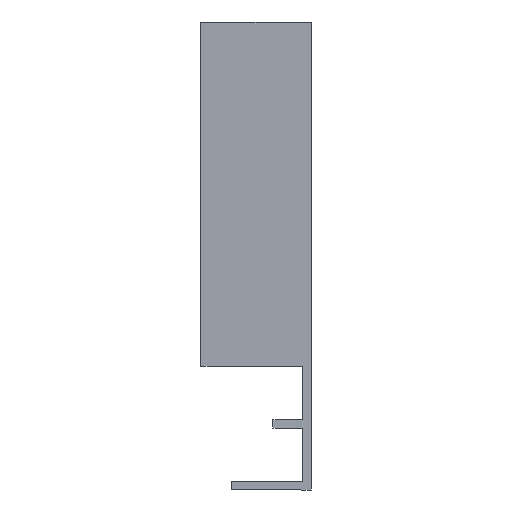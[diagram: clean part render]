
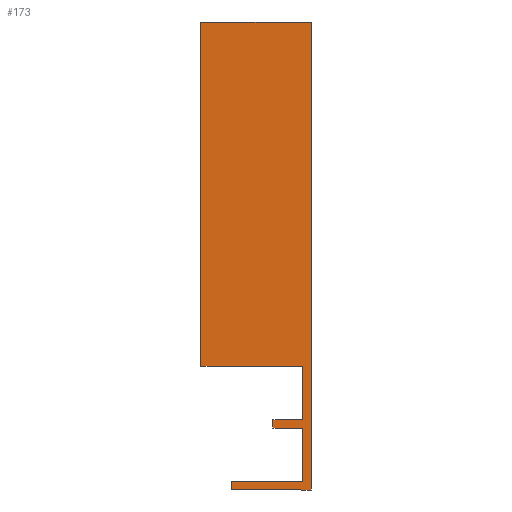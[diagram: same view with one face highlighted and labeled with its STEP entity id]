
A CAD part, left-side view. The second image highlights one B-rep face of the part: STEP entity #173.
In plain terms, the highlighted planar face has unit normal (-1, 0, 0).
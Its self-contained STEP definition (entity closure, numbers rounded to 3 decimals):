
#5 = EDGE_CURVE ( 'NONE', #159, #77, #369, .T. ) ;
#8 = EDGE_CURVE ( 'NONE', #77, #90, #370, .T. ) ;
#9 = EDGE_CURVE ( 'NONE', #157, #159, #362, .T. ) ;
#19 = EDGE_CURVE ( 'NONE', #147, #139, #495, .T. ) ;
#26 = EDGE_CURVE ( 'NONE', #156, #157, #481, .T. ) ;
#27 = EDGE_CURVE ( 'NONE', #139, #144, #477, .T. ) ;
#33 = EDGE_CURVE ( 'NONE', #152, #154, #355, .T. ) ;
#34 = EDGE_CURVE ( 'NONE', #104, #152, #498, .T. ) ;
#36 = EDGE_CURVE ( 'NONE', #90, #147, #502, .T. ) ;
#37 = EDGE_CURVE ( 'NONE', #144, #141, #504, .T. ) ;
#38 = EDGE_CURVE ( 'NONE', #141, #104, #506, .T. ) ;
#40 = EDGE_CURVE ( 'NONE', #154, #156, #510, .T. ) ;
#59 = AXIS2_PLACEMENT_3D ( 'NONE', #285, #291, #292 ) ;
#73 = CARTESIAN_POINT ( 'NONE',  ( -386.5, 10.4, 0. ) ) ;
#77 = VERTEX_POINT ( 'NONE', #228 ) ;
#85 = DIRECTION ( 'NONE',  ( 0., -1., 0. ) ) ;
#87 = CARTESIAN_POINT ( 'NONE',  ( -386.5, 6., -17.9 ) ) ;
#88 = DIRECTION ( 'NONE',  ( 0., 1., 0. ) ) ;
#89 = CARTESIAN_POINT ( 'NONE',  ( -386.5, -4.3, -7.75 ) ) ;
#90 = VERTEX_POINT ( 'NONE', #230 ) ;
#99 = CARTESIAN_POINT ( 'NONE',  ( -386.5, 0., -8.95 ) ) ;
#104 = VERTEX_POINT ( 'NONE', #231 ) ;
#106 = DIRECTION ( 'NONE',  ( 0., 0., -1. ) ) ;
#113 = CARTESIAN_POINT ( 'NONE',  ( -386.5, 6., -16.7 ) ) ;
#130 = DIRECTION ( 'NONE',  ( 0., 0., -1. ) ) ;
#131 = CARTESIAN_POINT ( 'NONE',  ( -386.5, 0., -7.75 ) ) ;
#132 = DIRECTION ( 'NONE',  ( 0., 0., -1. ) ) ;
#135 = CARTESIAN_POINT ( 'NONE',  ( -386.5, -4.3, -8.95 ) ) ;
#138 = DIRECTION ( 'NONE',  ( 0., -1., 0. ) ) ;
#139 = VERTEX_POINT ( 'NONE', #232 ) ;
#141 = VERTEX_POINT ( 'NONE', #234 ) ;
#144 = VERTEX_POINT ( 'NONE', #237 ) ;
#147 = VERTEX_POINT ( 'NONE', #240 ) ;
#152 = VERTEX_POINT ( 'NONE', #245 ) ;
#154 = VERTEX_POINT ( 'NONE', #247 ) ;
#156 = VERTEX_POINT ( 'NONE', #249 ) ;
#157 = VERTEX_POINT ( 'NONE', #250 ) ;
#159 = VERTEX_POINT ( 'NONE', #252 ) ;
#173 = ADVANCED_FACE ( 'NONE', ( #537 ), #282, .T. ) ;
#192 = CARTESIAN_POINT ( 'NONE',  ( -386.5, -5.5, -17.9 ) ) ;
#194 = DIRECTION ( 'NONE',  ( 0., 0., -1. ) ) ;
#200 = DIRECTION ( 'NONE',  ( 0., -1., 0. ) ) ;
#202 = DIRECTION ( 'NONE',  ( 0., 1., 0. ) ) ;
#203 = CARTESIAN_POINT ( 'NONE',  ( -386.5, -4.3, -16.7 ) ) ;
#205 = CARTESIAN_POINT ( 'NONE',  ( -386.5, 10.4, 49.7 ) ) ;
#208 = DIRECTION ( 'NONE',  ( 0., 1., 0. ) ) ;
#209 = CARTESIAN_POINT ( 'NONE',  ( -386.5, -5.5, 49.7 ) ) ;
#210 = DIRECTION ( 'NONE',  ( 0., 0., 1. ) ) ;
#212 = CARTESIAN_POINT ( 'NONE',  ( -386.5, -4.3, 0. ) ) ;
#213 = DIRECTION ( 'NONE',  ( 0., 0., -1. ) ) ;
#228 = CARTESIAN_POINT ( 'NONE',  ( -386.5, -4.3, -8.95 ) ) ;
#230 = CARTESIAN_POINT ( 'NONE',  ( -386.5, -4.3, -16.7 ) ) ;
#231 = CARTESIAN_POINT ( 'NONE',  ( -386.5, 10.4, 49.7 ) ) ;
#232 = CARTESIAN_POINT ( 'NONE',  ( -386.5, 6., -17.9 ) ) ;
#234 = CARTESIAN_POINT ( 'NONE',  ( -386.5, -5.5, 49.7 ) ) ;
#237 = CARTESIAN_POINT ( 'NONE',  ( -386.5, -5.5, -17.9 ) ) ;
#240 = CARTESIAN_POINT ( 'NONE',  ( -386.5, 6., -16.7 ) ) ;
#245 = CARTESIAN_POINT ( 'NONE',  ( -386.5, 10.4, 0. ) ) ;
#247 = CARTESIAN_POINT ( 'NONE',  ( -386.5, -4.3, 0. ) ) ;
#249 = CARTESIAN_POINT ( 'NONE',  ( -386.5, -4.3, -7.75 ) ) ;
#250 = CARTESIAN_POINT ( 'NONE',  ( -386.5, 0., -7.75 ) ) ;
#252 = CARTESIAN_POINT ( 'NONE',  ( -386.5, 0., -8.95 ) ) ;
#282 = PLANE ( 'NONE',  #59 ) ;
#285 = CARTESIAN_POINT ( 'NONE',  ( -386.5, 6., -16.7 ) ) ;
#291 = DIRECTION ( 'NONE',  ( -1., 0., 0. ) ) ;
#292 = DIRECTION ( 'NONE',  ( 0., -1., 0. ) ) ;
#341 = VECTOR ( 'NONE', #106, 1000. ) ;
#355 = LINE ( 'NONE', #73, #496 ) ;
#361 = VECTOR ( 'NONE', #130, 1000. ) ;
#362 = LINE ( 'NONE', #131, #361 ) ;
#364 = VECTOR ( 'NONE', #132, 1000. ) ;
#368 = VECTOR ( 'NONE', #138, 1000. ) ;
#369 = LINE ( 'NONE', #99, #368 ) ;
#370 = LINE ( 'NONE', #135, #364 ) ;
#381 = ORIENTED_EDGE ( 'NONE', *, *, #38, .T. ) ;
#382 = ORIENTED_EDGE ( 'NONE', *, *, #34, .T. ) ;
#383 = ORIENTED_EDGE ( 'NONE', *, *, #37, .T. ) ;
#384 = ORIENTED_EDGE ( 'NONE', *, *, #27, .T. ) ;
#385 = ORIENTED_EDGE ( 'NONE', *, *, #19, .T. ) ;
#386 = ORIENTED_EDGE ( 'NONE', *, *, #36, .T. ) ;
#390 = ORIENTED_EDGE ( 'NONE', *, *, #33, .T. ) ;
#391 = ORIENTED_EDGE ( 'NONE', *, *, #40, .T. ) ;
#392 = ORIENTED_EDGE ( 'NONE', *, *, #26, .T. ) ;
#393 = ORIENTED_EDGE ( 'NONE', *, *, #9, .T. ) ;
#394 = ORIENTED_EDGE ( 'NONE', *, *, #5, .T. ) ;
#395 = ORIENTED_EDGE ( 'NONE', *, *, #8, .T. ) ;
#438 = EDGE_LOOP ( 'NONE', ( #386, #385, #384, #383, #381, #382, #390, #391, #392, #393, #394, #395 ) ) ;
#477 = LINE ( 'NONE', #87, #480 ) ;
#479 = VECTOR ( 'NONE', #88, 1000. ) ;
#480 = VECTOR ( 'NONE', #85, 1000. ) ;
#481 = LINE ( 'NONE', #89, #479 ) ;
#495 = LINE ( 'NONE', #113, #341 ) ;
#496 = VECTOR ( 'NONE', #200, 1000. ) ;
#498 = LINE ( 'NONE', #205, #499 ) ;
#499 = VECTOR ( 'NONE', #194, 1000. ) ;
#502 = LINE ( 'NONE', #203, #503 ) ;
#503 = VECTOR ( 'NONE', #202, 1000. ) ;
#504 = LINE ( 'NONE', #192, #505 ) ;
#505 = VECTOR ( 'NONE', #210, 1000. ) ;
#506 = LINE ( 'NONE', #209, #507 ) ;
#507 = VECTOR ( 'NONE', #208, 1000. ) ;
#510 = LINE ( 'NONE', #212, #511 ) ;
#511 = VECTOR ( 'NONE', #213, 1000. ) ;
#537 = FACE_OUTER_BOUND ( 'NONE', #438, .T. ) ;
